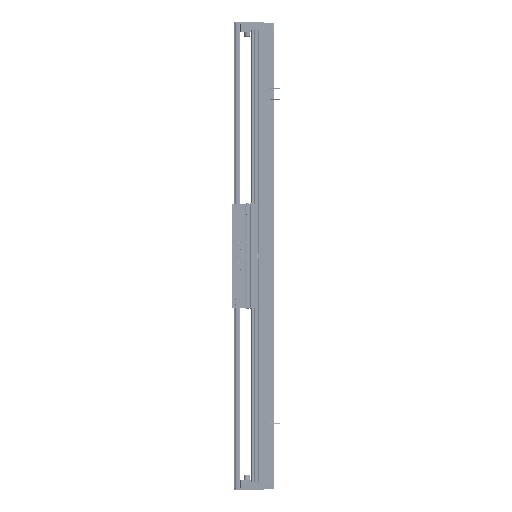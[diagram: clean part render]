
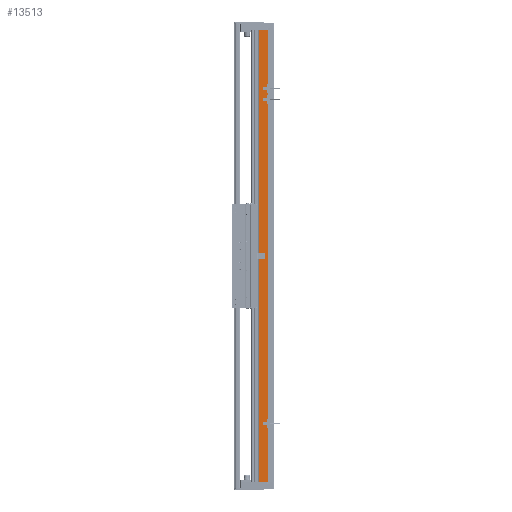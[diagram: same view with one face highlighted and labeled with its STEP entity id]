
A CAD part, left-side view. The second image highlights one B-rep face of the part: STEP entity #13513.
In plain terms, the highlighted planar face has unit normal (-1, 0, 0).
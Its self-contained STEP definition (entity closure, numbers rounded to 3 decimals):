
#1895 = FACE_OUTER_BOUND ( 'NONE', #7391, .T. ) ;
#2609 = CARTESIAN_POINT ( 'NONE',  ( -97.5, 36.95, 540. ) ) ;
#3832 = LINE ( 'NONE', #105342, #116175 ) ;
#5274 = DIRECTION ( 'NONE',  ( 0., 0., -1. ) ) ;
#7391 = EDGE_LOOP ( 'NONE', ( #19276, #24825, #67103, #98861 ) ) ;
#9126 = LINE ( 'NONE', #29292, #16299 ) ;
#13513 = ADVANCED_FACE ( 'NONE', ( #1895 ), #90453, .F. ) ;
#14476 = EDGE_CURVE ( 'NONE', #32228, #98593, #89488, .T. ) ;
#16299 = VECTOR ( 'NONE', #74649, 1000. ) ;
#19276 = ORIENTED_EDGE ( 'NONE', *, *, #32805, .T. ) ;
#23868 = AXIS2_PLACEMENT_3D ( 'NONE', #2609, #78228, #65319 ) ;
#24825 = ORIENTED_EDGE ( 'NONE', *, *, #84802, .F. ) ;
#25355 = DIRECTION ( 'NONE',  ( 0., 0., -1. ) ) ;
#29292 = CARTESIAN_POINT ( 'NONE',  ( -97.5, 36.95, -540. ) ) ;
#31661 = EDGE_CURVE ( 'NONE', #32228, #93286, #122269, .T. ) ;
#31996 = CARTESIAN_POINT ( 'NONE',  ( -97.5, 36.95, -540. ) ) ;
#32228 = VERTEX_POINT ( 'NONE', #80637 ) ;
#32805 = EDGE_CURVE ( 'NONE', #98593, #99467, #9126, .T. ) ;
#40331 = CARTESIAN_POINT ( 'NONE',  ( -97.5, 14.45, -540. ) ) ;
#65319 = DIRECTION ( 'NONE',  ( 0., 1., 0. ) ) ;
#67103 = ORIENTED_EDGE ( 'NONE', *, *, #31661, .F. ) ;
#74157 = CARTESIAN_POINT ( 'NONE',  ( -97.5, 14.45, 540. ) ) ;
#74649 = DIRECTION ( 'NONE',  ( 0., -1., 0. ) ) ;
#78228 = DIRECTION ( 'NONE',  ( 1., 0., 0. ) ) ;
#80637 = CARTESIAN_POINT ( 'NONE',  ( -97.5, 36.95, 540. ) ) ;
#84802 = EDGE_CURVE ( 'NONE', #93286, #99467, #3832, .T. ) ;
#85897 = VECTOR ( 'NONE', #25355, 1000. ) ;
#89488 = LINE ( 'NONE', #124090, #85897 ) ;
#89578 = VECTOR ( 'NONE', #89821, 1000. ) ;
#89821 = DIRECTION ( 'NONE',  ( 0., -1., 0. ) ) ;
#90453 = PLANE ( 'NONE',  #23868 ) ;
#93286 = VERTEX_POINT ( 'NONE', #74157 ) ;
#98505 = CARTESIAN_POINT ( 'NONE',  ( -97.5, 36.95, 540. ) ) ;
#98593 = VERTEX_POINT ( 'NONE', #31996 ) ;
#98861 = ORIENTED_EDGE ( 'NONE', *, *, #14476, .T. ) ;
#99467 = VERTEX_POINT ( 'NONE', #40331 ) ;
#105342 = CARTESIAN_POINT ( 'NONE',  ( -97.5, 14.45, 540. ) ) ;
#116175 = VECTOR ( 'NONE', #5274, 1000. ) ;
#122269 = LINE ( 'NONE', #98505, #89578 ) ;
#124090 = CARTESIAN_POINT ( 'NONE',  ( -97.5, 36.95, 540. ) ) ;
